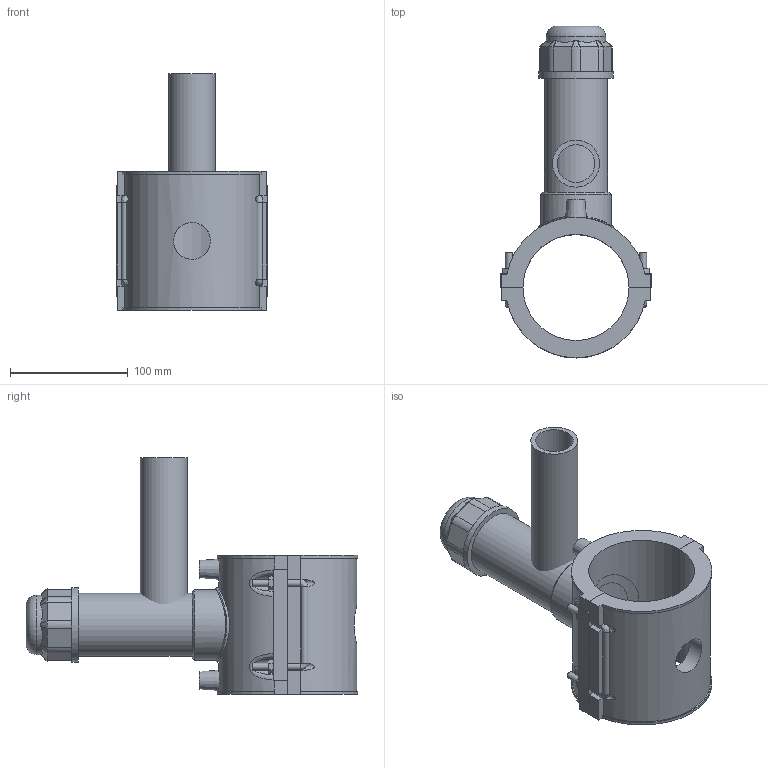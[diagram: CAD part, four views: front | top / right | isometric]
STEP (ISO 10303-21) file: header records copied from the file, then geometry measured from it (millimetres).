
FILE_DESCRIPTION(/* description */ (''),/* implementation_level */ '2;1');
FILE_NAME(/* name */ 'C:\Dropbox\KIMPROJECTS-Inventor 2019\99-16-3568-Processing\ElectroFusion Fittings\4963P4\stp\4963P4090040.stp',/* time_stamp */ '2022-03-17T11:27:05+02:00',/* author */ ('KIM'),/* organization */ (''),/* preprocessor_version */ 'ST-DEVELOPER v17.2',/* originating_system */ 'Autodesk Inventor 2019',/* authorisation */ '');
FILE_SCHEMA (('AUTOMOTIVE_DESIGN { 1 0 10303 214 3 1 1 }'));
Length unit declared in the file: millimetre
Products named in the file (1): 4963P4090040
Bounding box: 128 x 281.67 x 201 mm (x, y, z)
Volume: 847187.8 mm3; surface area: 195201.6 mm2
Topology: 3 solids, 3 shells, 218 faces, 559 edges, 360 vertices
Faces by surface type: plane 125, cylinder 52, bspline 25, cone 15, torus 1
Full cylindrical faces by diameter (mm): 4 x2, 6 x8, 10 x2, 31.36 x1, 32 x1, 40 x1, 44.1 x1, 50.4 x1, 53.55 x1, 59.85 x1, 63 x2
Entity records: 8081 total; most frequent: CARTESIAN_POINT 2817, ORIENTED_EDGE 1118, DIRECTION 1023, EDGE_CURVE 559, VERTEX_POINT 360, AXIS2_PLACEMENT_3D 351, LINE 321, VECTOR 321
